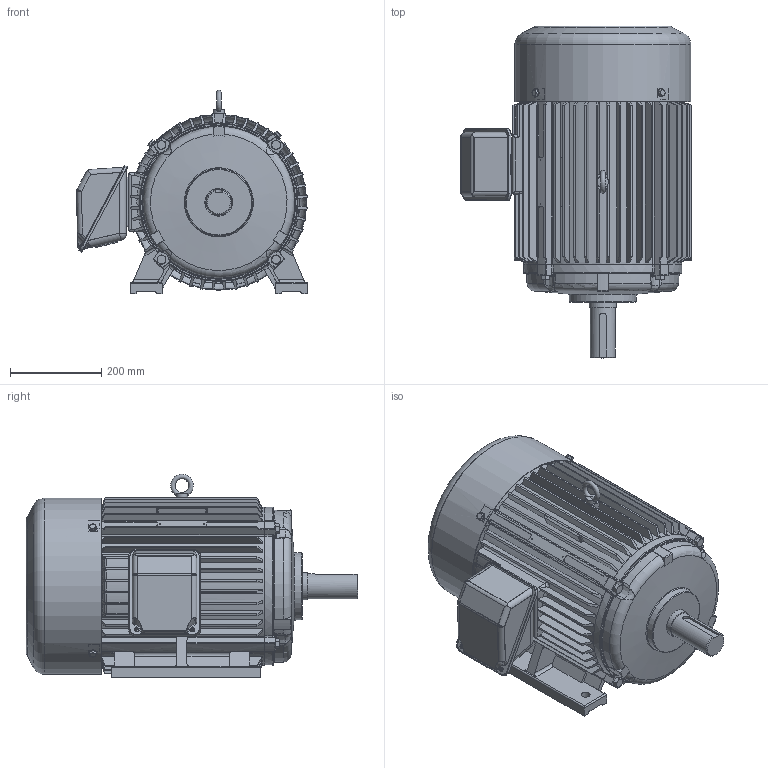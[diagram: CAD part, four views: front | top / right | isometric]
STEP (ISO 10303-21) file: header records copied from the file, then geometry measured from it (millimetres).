
FILE_DESCRIPTION(/* description */ ('Unknown'),/* implementation_level */ '2;1');
FILE_NAME(/* name */ '1-SMA-31988_외형도(330DIA)',/* time_stamp */ '2026-07-24T08:32:56+09:00',/* author */ ('Unknown'),/* organization */ ('Unknown'),/* preprocessor_version */ 'ST-DEVELOPER v16',/* originating_system */ 'DEX',/* authorisation */ $);
FILE_SCHEMA (('AUTOMOTIVE_DESIGN {1 0 10303 214 3 1 1}'));
Length unit declared in the file: millimetre
Products named in the file (19): 1-SMA-31988_寇屈档(330DI; 2-SMA-30266_FRAME(330DIA); 3-SMA-31049_擅粽塭鰍(330D; 4-SMA-31050_菴粽塭鰍(330D; 5-SMA-31051A_SHAFT(330DIA); 7-SMA-31053-1_FAN COVER(330DIA); 6-SMA-31247_FAN(330DIA); 幫陝Ы楠雖 M8x1.25; 幫陝獐お M12x1.75x; I獐お M12x1.75x22; 蹴辨 S5S50; 18.5~37kW_攪嘐割 夢蝶(300~330; T-BOX憶っ(300~330DIA; 18.5~37kW_堅鼠ぬ韁(300~330D; 褊濠 菅斬 該葬 獐お M5x; 9-SMA-33053_T-BOX(ж); 8-SMA-33052_T-BOX(鼻); 6311ZZ; 6312ZZ
Assembly tree (28 placements, depth 3):
  1-SMA-31988_寇屈档(330DI
    2-SMA-30266_FRAME(330DIA)
    3-SMA-31049_擅粽塭鰍(330D
    4-SMA-31050_菴粽塭鰍(330D
    5-SMA-31051A_SHAFT(330DIA)
    7-SMA-31053-1_FAN COVER(330DIA)
    6-SMA-31247_FAN(330DIA)
    幫陝Ы楠雖 M8x1.25  x4
    幫陝獐お M12x1.75x  x7
    I獐お M12x1.75x22
    蹴辨 S5S50
    18.5~37kW_攪嘐割 夢蝶(300~330
      T-BOX憶っ(300~330DIA
      18.5~37kW_堅鼠ぬ韁(300~330D
      褊濠 菅斬 該葬 獐お M5x  x2
      9-SMA-33053_T-BOX(ж)
      8-SMA-33052_T-BOX(鼻)
    6311ZZ
    6312ZZ
Bounding box: 505.21 x 725.99 x 444.99 mm (x, y, z)
Volume: 13571799.3 mm3; surface area: 3568623.8 mm2
Topology: 50 solids, 50 shells, 2507 faces, 6365 edges, 3946 vertices
Faces by surface type: plane 758, cylinder 756, cone 469, bspline 270, torus 214, sphere 40
Full cylindrical faces by diameter (mm): 2.2 x4, 2.5 x2, 4.134 x2, 4.917 x2, 5 x2, 6 x2, 6.647 x1, 7 x2, 8 x14, 9 x2, 10.106 x17, 12 x18, 14 x8, 17.5 x4, 19 x4, 25 x1, 50 x4, 54.8 x1, 55 x3, 55.8 x1, 59.8 x1, 60 x2, 60.8 x1, 65.1 x1, 68 x2, 69 x1, 72 x1, 73.571 x2, 73.971 x2, 76 x1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
Entity records: 102808 total; most frequent: CARTESIAN_POINT 41613, ORIENTED_EDGE 11134, DIRECTION 10611, EDGE_CURVE 5567, AXIS2_PLACEMENT_3D 4310, VERTEX_POINT 3605, FACE_BOUND 2714, EDGE_LOOP 2685
